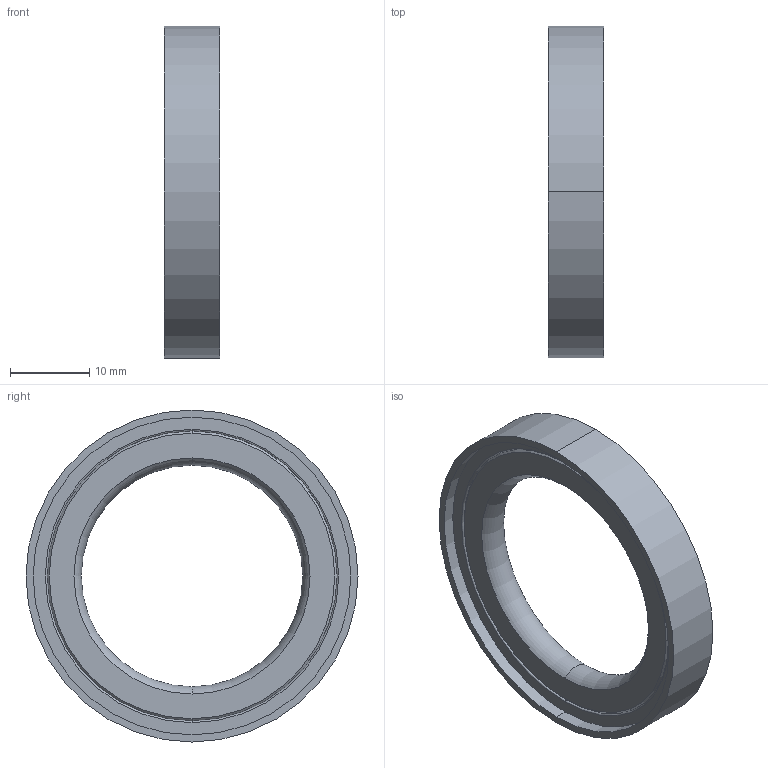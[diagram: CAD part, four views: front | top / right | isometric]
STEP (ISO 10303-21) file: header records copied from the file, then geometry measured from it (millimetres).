
FILE_DESCRIPTION((''),'2;1');
FILE_NAME('18351_18354_SW0001','2016-03-08T',('l0100062'),('Copyright by Leybold GmbH'),'PRO/ENGINEER BY PARAMETRIC TECHNOLOGY CORPORATION, 2015280','PRO/ENGINEER BY PARAMETRIC TECHNOLOGY CORPORATION, 2015280','');
FILE_SCHEMA(('AUTOMOTIVE_DESIGN { 1 0 10303 214 1 1 1 1 }'));
Length unit declared in the file: millimetre
Products named in the file (1): 18351_18354_SW0001
Bounding box: 7 x 42 x 42 mm (x, y, z)
Volume: 3251.9 mm3; surface area: 3187.7 mm2
Topology: 1 solids, 1 shells, 22 faces, 44 edges, 28 vertices
Faces by surface type: torus 10, plane 6, cylinder 6
Entity records: 848 total; most frequent: DIRECTION 126, CARTESIAN_POINT 96, ORIENTED_EDGE 88, AXIS2_PLACEMENT_3D 60, COLOUR_RGB 46, EDGE_CURVE 44, CIRCLE 38, VERTEX_POINT 28
